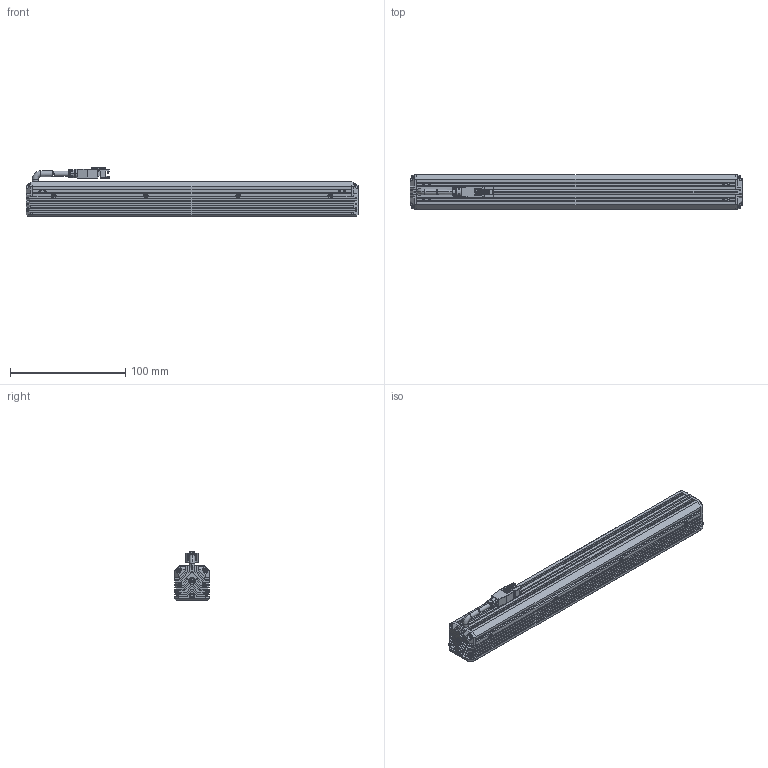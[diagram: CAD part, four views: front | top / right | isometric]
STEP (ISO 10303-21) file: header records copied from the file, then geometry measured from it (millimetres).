
FILE_DESCRIPTION((''),'2;1');
FILE_NAME('MV-LLDS-H-300-30-W-PL_ASM','2024-04-08T13:50:38',('huguozhe'),(''),'CREO PARAMETRIC BY PTC INC, 2020044','CREO PARAMETRIC BY PTC INC, 2020044','');
FILE_SCHEMA(('AUTOMOTIVE_DESIGN { 1 0 10303 214 1 1 1 1 }'));
Length unit declared in the file: millimetre
Products named in the file (15): DE-15-001085; DE-15-001084_ASM; DE-15-000353; DE-15-000387_ASM; DE-12-002271; TIP-M3X4-4_5X5-SO-ET-07061033; DE-12-002271_ASM; DE-12-001345; SC-KM2X6-BNI-GB819; XIANLAN_HEAD; CABLE_HEAD; CABLE_HEAD_ASM_ASM; 190100852; SC-PM2X6B-JMP; MV-LLDS-H-300-30-W-PL_ASM
Assembly tree (33 placements, depth 3):
  MV-LLDS-H-300-30-W-PL_ASM
    DE-15-001084_ASM
      DE-15-001085
    DE-15-000387_ASM
      DE-15-000353
    DE-12-002271_ASM  x2
      DE-12-002271
      TIP-M3X4-4_5X5-SO-ET-07061033
    DE-12-001345
    SC-KM2X6-BNI-GB819  x4
    CABLE_HEAD_ASM_ASM
      XIANLAN_HEAD
      CABLE_HEAD
    190100852  x8
    SC-PM2X6B-JMP  x8
Bounding box: 288 x 30 x 42.65 mm (x, y, z)
Volume: 199267.1 mm3; surface area: 112404.8 mm2
Topology: 31 solids, 67 shells, 2794 faces, 7212 edges, 4541 vertices
Faces by surface type: plane 1344, cylinder 610, bspline 472, cone 309, torus 50, sphere 8, extrusion 1
Entity records: 47976 total; most frequent: CARTESIAN_POINT 11225, ORIENTED_EDGE 6142, DIRECTION 5919, EDGE_CURVE 3103, VERTEX_POINT 1988, VECTOR 1975, LINE 1974, AXIS2_PLACEMENT_3D 1972
